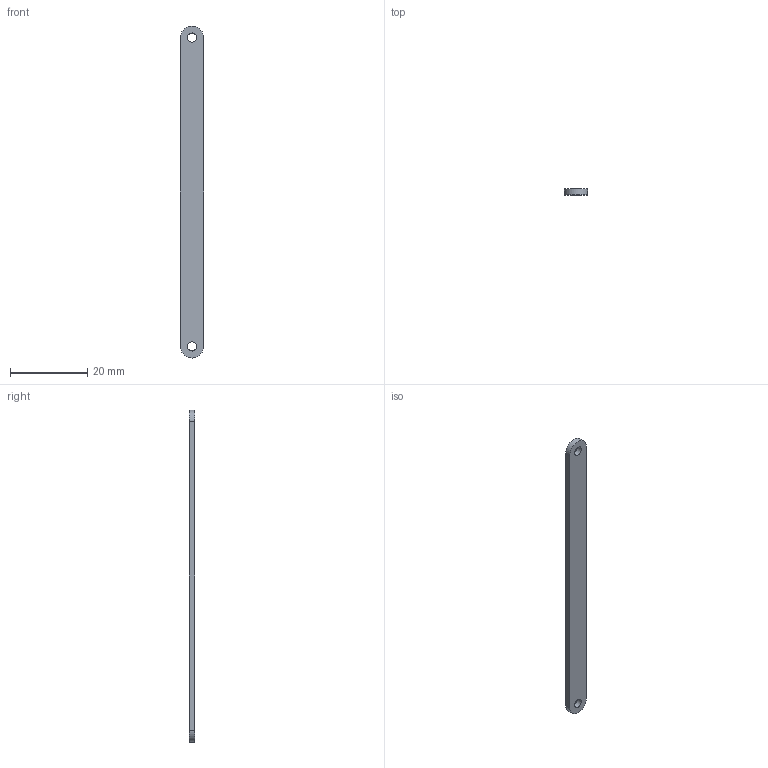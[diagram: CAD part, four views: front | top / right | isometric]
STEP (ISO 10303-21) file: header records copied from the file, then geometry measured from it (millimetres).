
FILE_DESCRIPTION(/* description */ (''),/* implementation_level */ '2;1');
FILE_NAME(/* name */ 'C:/Users/priba/Downloads/lever80.step',/* time_stamp */ '2020-09-13T09:21:36+02:00',/* author */ (''),/* organization */ (''),/* preprocessor_version */ 'ST-DEVELOPER v18.1',/* originating_system */ 'Autodesk Translation Framework v9.3.0.1241',/* authorisation */ '');
FILE_SCHEMA (('AUTOMOTIVE_DESIGN { 1 0 10303 214 3 1 1 }'));
Length unit declared in the file: millimetre
Products named in the file (1): lever80
Bounding box: 6 x 1.5 x 86 mm (x, y, z)
Volume: 748.8 mm3; surface area: 1289.3 mm2
Topology: 1 solids, 1 shells, 8 faces, 18 edges, 12 vertices
Faces by surface type: cylinder 4, plane 4
Full cylindrical faces by diameter (mm): 2.4 x2
Entity records: 271 total; most frequent: DIRECTION 44, CARTESIAN_POINT 39, ORIENTED_EDGE 36, EDGE_CURVE 18, AXIS2_PLACEMENT_3D 17, EDGE_LOOP 12, VERTEX_POINT 12, LINE 10
